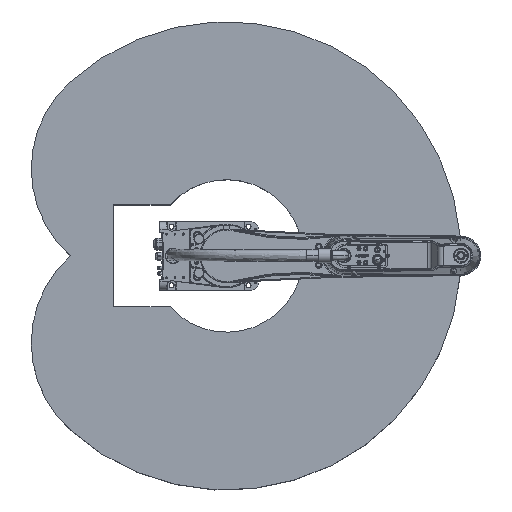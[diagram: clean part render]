
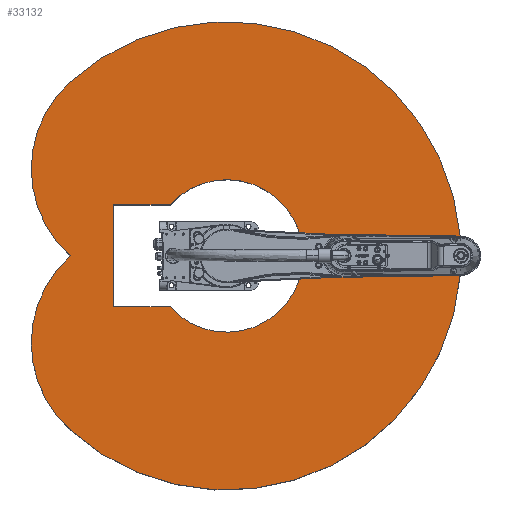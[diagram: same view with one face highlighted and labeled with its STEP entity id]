
A CAD part, top view. The second image highlights one B-rep face of the part: STEP entity #33132.
In plain terms, the highlighted planar face has unit normal (0, 0, 1) as drawn and (0, 1, 0) by its records, which use the part's own axes.
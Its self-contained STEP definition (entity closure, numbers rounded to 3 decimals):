
#993 = CARTESIAN_POINT ( 'NONE',  ( -260.101, 188., 584.196 ) ) ;
#6444 = ORIENTED_EDGE ( 'NONE', *, *, #62868, .F. ) ;
#7689 = DIRECTION ( 'NONE',  ( 1., 0., 0. ) ) ;
#12454 = CIRCLE ( 'NONE', #151652, 350. ) ;
#16793 = EDGE_CURVE ( 'NONE', #175773, #61446, #70199, .T. ) ;
#17163 = EDGE_CURVE ( 'NONE', #113081, #20487, #90438, .T. ) ;
#19188 = CARTESIAN_POINT ( 'NONE',  ( 260.101, 188., 234.196 ) ) ;
#20487 = VERTEX_POINT ( 'NONE', #106522 ) ;
#28053 = AXIS2_PLACEMENT_3D ( 'NONE', #76852, #118767, #31697 ) ;
#30902 = ORIENTED_EDGE ( 'NONE', *, *, #16793, .T. ) ;
#31697 = DIRECTION ( 'NONE',  ( 0., 0., -1. ) ) ;
#33132 = ADVANCED_FACE ( 'NONE', ( #75328, #36592 ), #165260, .T. ) ;
#35049 = DIRECTION ( 'NONE',  ( 0., 1., 0. ) ) ;
#36592 = FACE_OUTER_BOUND ( 'NONE', #90789, .T. ) ;
#37562 = ORIENTED_EDGE ( 'NONE', *, *, #164519, .F. ) ;
#39543 = VERTEX_POINT ( 'NONE', #81651 ) ;
#41570 = CARTESIAN_POINT ( 'NONE',  ( 152.5, 188., 169.358 ) ) ;
#42639 = DIRECTION ( 'NONE',  ( 0., 1., 0. ) ) ;
#46999 = DIRECTION ( 'NONE',  ( 0., 0., -1. ) ) ;
#48215 = AXIS2_PLACEMENT_3D ( 'NONE', #134419, #92512, #151548 ) ;
#52705 = AXIS2_PLACEMENT_3D ( 'NONE', #137956, #136714, #150749 ) ;
#61446 = VERTEX_POINT ( 'NONE', #993 ) ;
#62868 = EDGE_CURVE ( 'NONE', #20487, #69073, #88353, .T. ) ;
#65582 = CARTESIAN_POINT ( 'NONE',  ( 152.5, 188., 337.5 ) ) ;
#66354 = EDGE_LOOP ( 'NONE', ( #6444, #165385, #37562, #176733 ) ) ;
#69073 = VERTEX_POINT ( 'NONE', #106720 ) ;
#70199 = CIRCLE ( 'NONE', #186521, 350. ) ;
#74025 = DIRECTION ( 'NONE',  ( 0., 1., 0. ) ) ;
#75328 = FACE_BOUND ( 'NONE', #66354, .T. ) ;
#76436 = DIRECTION ( 'NONE',  ( 0., 0., 1. ) ) ;
#76852 = CARTESIAN_POINT ( 'NONE',  ( 0., 188., 0. ) ) ;
#81249 = VECTOR ( 'NONE', #46999, 1000. ) ;
#81651 = CARTESIAN_POINT ( 'NONE',  ( 0., 188., 468.391 ) ) ;
#85992 = VECTOR ( 'NONE', #7689, 1000. ) ;
#88353 = LINE ( 'NONE', #65582, #85992 ) ;
#89251 = CARTESIAN_POINT ( 'NONE',  ( -260.101, 188., 234.196 ) ) ;
#90438 = LINE ( 'NONE', #113849, #108689 ) ;
#90721 = EDGE_CURVE ( 'NONE', #39543, #110500, #167736, .T. ) ;
#90789 = EDGE_LOOP ( 'NONE', ( #128306, #92896, #141532, #30902, #155449 ) ) ;
#92512 = DIRECTION ( 'NONE',  ( 0., 1., 0. ) ) ;
#92896 = ORIENTED_EDGE ( 'NONE', *, *, #187655, .T. ) ;
#101126 = DIRECTION ( 'NONE',  ( 0., 0., 1. ) ) ;
#101850 = CARTESIAN_POINT ( 'NONE',  ( -152.5, 188., 169.358 ) ) ;
#103060 = CIRCLE ( 'NONE', #111368, 700. ) ;
#106522 = CARTESIAN_POINT ( 'NONE',  ( -152.5, 188., 337.5 ) ) ;
#106720 = CARTESIAN_POINT ( 'NONE',  ( 152.5, 188., 337.5 ) ) ;
#108689 = VECTOR ( 'NONE', #101126, 1000. ) ;
#110500 = VERTEX_POINT ( 'NONE', #177153 ) ;
#111368 = AXIS2_PLACEMENT_3D ( 'NONE', #143583, #42639, #144851 ) ;
#113081 = VERTEX_POINT ( 'NONE', #101850 ) ;
#113849 = CARTESIAN_POINT ( 'NONE',  ( -152.5, 188., 337.5 ) ) ;
#118767 = DIRECTION ( 'NONE',  ( 0., 1., 0. ) ) ;
#119124 = DIRECTION ( 'NONE',  ( 0., 1., 0. ) ) ;
#120133 = EDGE_CURVE ( 'NONE', #69073, #155020, #158437, .T. ) ;
#126210 = VERTEX_POINT ( 'NONE', #150590 ) ;
#128306 = ORIENTED_EDGE ( 'NONE', *, *, #90721, .T. ) ;
#134296 = CARTESIAN_POINT ( 'NONE',  ( -260.101, 188., 234.196 ) ) ;
#134419 = CARTESIAN_POINT ( 'NONE',  ( 260.101, 188., 234.196 ) ) ;
#136714 = DIRECTION ( 'NONE',  ( 0., 1., 0. ) ) ;
#137956 = CARTESIAN_POINT ( 'NONE',  ( 130.05, 188., 117.098 ) ) ;
#141532 = ORIENTED_EDGE ( 'NONE', *, *, #170096, .T. ) ;
#143365 = CIRCLE ( 'NONE', #28053, 227.9 ) ;
#143583 = CARTESIAN_POINT ( 'NONE',  ( 0., 188., 0. ) ) ;
#144486 = DIRECTION ( 'NONE',  ( 0., 0., 1. ) ) ;
#144851 = DIRECTION ( 'NONE',  ( 0., 0., 1. ) ) ;
#147017 = DIRECTION ( 'NONE',  ( 0., 0., 1. ) ) ;
#149168 = CARTESIAN_POINT ( 'NONE',  ( 152.5, 188., 169.358 ) ) ;
#150590 = CARTESIAN_POINT ( 'NONE',  ( 520.201, 188., 468.391 ) ) ;
#150749 = DIRECTION ( 'NONE',  ( 0., 0., 1. ) ) ;
#151548 = DIRECTION ( 'NONE',  ( 0., 0., 1. ) ) ;
#151652 = AXIS2_PLACEMENT_3D ( 'NONE', #134296, #119124, #147017 ) ;
#155020 = VERTEX_POINT ( 'NONE', #41570 ) ;
#155449 = ORIENTED_EDGE ( 'NONE', *, *, #156992, .T. ) ;
#156992 = EDGE_CURVE ( 'NONE', #61446, #39543, #12454, .T. ) ;
#158437 = LINE ( 'NONE', #149168, #81249 ) ;
#160872 = AXIS2_PLACEMENT_3D ( 'NONE', #19188, #35049, #76436 ) ;
#164519 = EDGE_CURVE ( 'NONE', #155020, #113081, #143365, .T. ) ;
#165260 = PLANE ( 'NONE',  #52705 ) ;
#165385 = ORIENTED_EDGE ( 'NONE', *, *, #17163, .F. ) ;
#167736 = CIRCLE ( 'NONE', #160872, 350. ) ;
#170096 = EDGE_CURVE ( 'NONE', #126210, #175773, #103060, .T. ) ;
#175268 = CIRCLE ( 'NONE', #48215, 350. ) ;
#175773 = VERTEX_POINT ( 'NONE', #184729 ) ;
#176733 = ORIENTED_EDGE ( 'NONE', *, *, #120133, .F. ) ;
#177153 = CARTESIAN_POINT ( 'NONE',  ( 260.101, 188., 584.196 ) ) ;
#184729 = CARTESIAN_POINT ( 'NONE',  ( -520.201, 188., 468.391 ) ) ;
#186521 = AXIS2_PLACEMENT_3D ( 'NONE', #89251, #74025, #144486 ) ;
#187655 = EDGE_CURVE ( 'NONE', #110500, #126210, #175268, .T. ) ;
